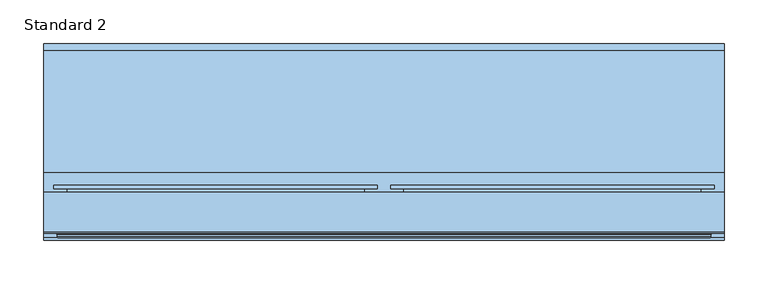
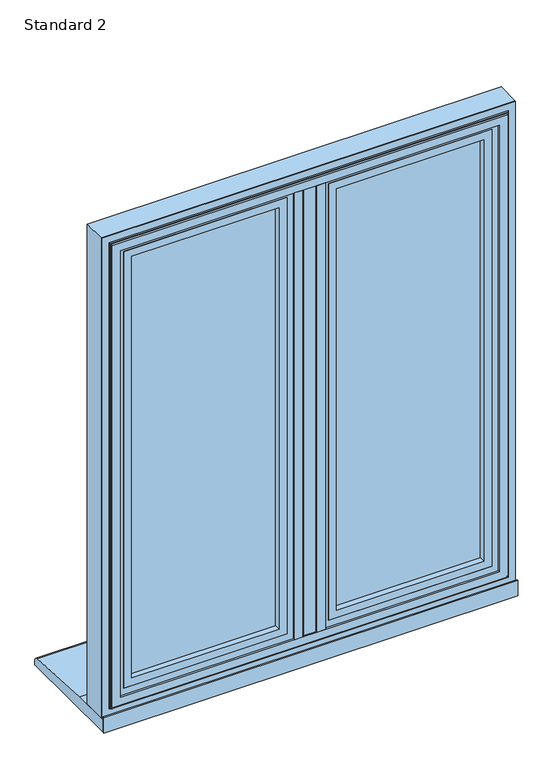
"""IFC4 building model written with IfcOpenShell, lengths in millimetres: window geometry, SMARTS_AlithermHeritage : Standard 2."""

from ifc_helpers import new_model, si_unit, point, frame, frame_2d, origin, place, context, project, spatial, polyline, circle_curve, ellipse_curve, trimmed, segment, composite_curve, outline, extrude, source, transform, mapped, element, save
from ifc_brep_helpers import plane_surface, cylinder_surface, revolved_surface, advanced_brep


def standard_2_d713537e(model_context):
    return source(origin(), model_context, "Body", "SolidModel", [
        extrude(outline(polyline([(-13.6941456, 95.2798432), (13.6941456, 95.2798432), (13.6941456, 47.279476), (-13.6941456, 47.279476), (-13.6941456, 95.2798432)])), frame((0.0, 0.0, 652.6941456), z_axis=(0.0, 0.0, 1.0), x_axis=(1.0, 0.0, 0.0)), (0.0, 0.0, 1.0), 919.6117089),
        extrude(outline(composite_curve([segment(polyline([(-29.0, 47.279476), (29.0, 47.279476), (29.0, 43.2798432), (13.0, 43.2798432)]), True, "CONTINUOUS"), segment(trimmed(circle_curve(frame_2d((13.0, 44.2798432)), 1.0), [point((13.0, 43.2798432))], [point((12.0, 44.2798432))], False, "CARTESIAN"), True, "CONTINUOUS"), segment(polyline([(12.0, 44.2798432), (12.0, 45.7798432), (-12.0, 45.7798432), (-12.0, 44.2798432)]), True, "CONTINUOUS"), segment(trimmed(circle_curve(frame_2d((-13.0, 44.2798432)), 1.0), [point((-12.0, 44.2798432))], [point((-13.0, 43.2798432))], False, "CARTESIAN"), True, "CONTINUOUS"), segment(polyline([(-13.0, 43.2798432), (-29.0, 43.2798432), (-29.0, 47.279476)]), True, "CONTINUOUS")], self_intersect=False)), frame((0.0, 0.0, 668.0), z_axis=(0.0, 0.0, 1.0), x_axis=(1.0, 0.0, 0.0)), (0.0, 0.0, 1.0), 889.0),
        extrude(outline(polyline([(-343.5, 89.2798432), (-42.5, 89.2798432), (-42.5, 85.2798432), (-343.5, 85.2798432), (-343.5, 89.2798432)])), frame((0.0, 0.0, 681.5), z_axis=(0.0, 0.0, 1.0), x_axis=(1.0, 0.0, 0.0)), (0.0, 0.0, 1.0), 862.0),
        extrude(outline(polyline([(-343.5, 69.2798432), (-42.5, 69.2798432), (-42.5, 65.2798432), (-343.5, 65.2798432), (-343.5, 69.2798432)])), frame((0.0, 0.0, 681.5), z_axis=(0.0, 0.0, 1.0), x_axis=(1.0, 0.0, 0.0)), (0.0, 0.0, 1.0), 862.0),
        extrude(outline(polyline([(1543.5, -343.5), (681.5, -343.5), (681.5, -42.5), (1543.5, -42.5), (1543.5, -343.5)]), holes=[polyline([(1533.5, -52.5), (691.5, -52.5), (691.5, -333.5), (1533.5, -333.5), (1533.5, -52.5)])]), frame((0.0, 69.2798432, 0.0), z_axis=(0.0, 1.0, 0.0), x_axis=(0.0, 0.0, 1.0)), (0.0, 0.0, 1.0), 16.0),
        extrude(outline(polyline([(1547.0052956, -347.0052956), (677.9947044, -347.0052956), (677.9947044, -38.9947044), (1547.0052956, -38.9947044), (1547.0052956, -347.0052956)]), holes=[polyline([(1532.0, -54.0), (693.0, -54.0), (693.0, -332.0), (1532.0, -332.0), (1532.0, -54.0)])]), frame((0.0, 51.2798432, 0.0), z_axis=(0.0, 1.0, 0.0), x_axis=(0.0, 0.0, 1.0)), (0.0, 0.0, 1.0), 11.3),
        extrude(outline(polyline([(662.3548042, -362.6451958), (662.3548042, -23.3548042), (1562.6451958, -23.3548042), (1562.6451958, -362.6451958), (662.3548042, -362.6451958)]), holes=[polyline([(1547.0, -347.0), (1547.0, -39.0), (678.0, -39.0), (678.0, -347.0), (1547.0, -347.0)])]), frame((0.0, 51.2798432, 0.0), z_axis=(0.0, 1.0, 0.0), x_axis=(0.0, 0.0, 1.0)), (0.0, 0.0, 1.0), 41.6),
        advanced_brep(
        [(-332.0, 98.0798432, 1532.0), (-332.0, 92.8798432, 1532.0), (-332.0, 92.8798432, 693.0), (-332.0, 98.0798432, 693.0), (-54.0, 92.8798432, 693.0), (-54.0, 98.0798432, 693.0), (-54.0, 92.8798432, 1532.0), (-54.0, 98.0798432, 1532.0), (-378.2, 99.2798432, 1578.2), (-378.2, 103.2798432, 1578.2), (-378.2, 103.2798432, 646.8), (-378.2, 99.2798432, 646.8), (-7.8, 103.2798432, 646.8), (-7.8, 99.2798432, 646.8), (-7.8, 103.2798432, 1578.2), (-7.8, 99.2798432, 1578.2), (-363.1467657, 99.2798432, 1563.1467657), (-22.8532343, 99.2798432, 1563.1467657), (-22.8532343, 99.2798432, 661.8532343), (-363.1467657, 99.2798432, 661.8532343), (-349.2, 103.2798432, 675.8), (-36.8, 103.2798432, 675.8), (-36.8, 103.2798432, 1549.2), (-349.2, 103.2798432, 1549.2), (-363.1467657, 92.8798432, 1563.1467657), (-363.1467657, 92.8798432, 661.8532343), (-22.8532343, 92.8798432, 661.8532343), (-22.8532343, 92.8798432, 1563.1467657), (-347.2, 101.2798432, 1547.2), (-347.2, 100.0798432, 1547.2), (-347.2, 100.0798432, 677.8), (-347.2, 101.2798432, 677.8), (-345.2, 98.0798432, 1545.2), (-345.2, 98.0798432, 679.8), (-38.8, 100.0798432, 677.8), (-38.8, 101.2798432, 677.8), (-40.8, 98.0798432, 679.8), (-38.8, 100.0798432, 1547.2), (-38.8, 101.2798432, 1547.2), (-40.8, 98.0798432, 1545.2)],
        [
            (0, 1),
            (1, 2),
            (2, 3),
            (3, 0),
            (2, 4),
            (4, 5),
            (5, 3),
            (4, 6),
            (6, 7),
            (7, 5),
            (6, 1),
            (0, 7),
            (8, 9),
            (9, 10),
            (10, 11),
            (11, 8),
            (10, 12),
            (12, 13),
            (13, 11),
            (12, 14),
            (14, 15),
            (15, 13),
            (15, 8),
            (16, 17),
            (17, 18),
            (18, 19),
            (19, 16),
            (14, 9),
            (20, 21),
            (21, 22),
            (22, 23),
            (23, 20),
            (24, 16),
            (19, 25),
            (25, 24),
            (18, 26),
            (26, 25),
            (17, 27),
            (27, 26),
            (27, 24),
            (28, 29),
            (29, 30),
            (30, 31),
            (31, 28),
            (29, 32, ellipse_curve(frame((-345.2, 100.0798432, 1545.2), z_axis=(0.7071067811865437, 0.0, 0.7071067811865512), x_axis=(0.7071067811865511, 0.0, -0.7071067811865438)), 2.8284271, 2.0)),
            (32, 33),
            (33, 30, ellipse_curve(frame((-345.2, 100.0798432, 679.8), z_axis=(0.7071067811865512, 0.0, -0.7071067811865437), x_axis=(-0.7071067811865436, 0.0, -0.7071067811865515)), 2.8284271, 2.0)),
            (30, 34),
            (34, 35),
            (35, 31),
            (33, 36),
            (36, 34, ellipse_curve(frame((-40.8, 100.0798432, 679.8), z_axis=(0.7071067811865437, 0.0, 0.7071067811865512), x_axis=(0.7071067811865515, 0.0, -0.7071067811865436)), 2.8284271, 2.0)),
            (34, 37),
            (37, 38),
            (38, 35),
            (36, 39),
            (39, 37, ellipse_curve(frame((-40.8, 100.0798432, 1545.2), z_axis=(-0.7071067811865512, 0.0, 0.7071067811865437), x_axis=(0.7071067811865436, 0.0, 0.7071067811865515)), 2.8284271, 2.0)),
            (32, 39),
            (37, 29),
            (28, 38),
            (23, 28, ellipse_curve(frame((-349.2, 101.2798432, 1549.2), z_axis=(-0.7071067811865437, 0.0, -0.7071067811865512), x_axis=(-0.7071067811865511, 0.0, 0.7071067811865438)), 2.8284271, 2.0)),
            (31, 20, ellipse_curve(frame((-349.2, 101.2798432, 675.8), z_axis=(-0.7071067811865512, 0.0, 0.7071067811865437), x_axis=(0.7071067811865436, 0.0, 0.7071067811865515)), 2.8284271, 2.0)),
            (35, 21, ellipse_curve(frame((-36.8, 101.2798432, 675.8), z_axis=(-0.7071067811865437, 0.0, -0.7071067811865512), x_axis=(-0.7071067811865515, 0.0, 0.7071067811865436)), 2.8284271, 2.0)),
            (38, 22, ellipse_curve(frame((-36.8, 101.2798432, 1549.2), z_axis=(0.7071067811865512, 0.0, -0.7071067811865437), x_axis=(-0.7071067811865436, 0.0, -0.7071067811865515)), 2.8284271, 2.0)),
        ],
        [
            plane_surface(frame((-332.0, 92.8798432, 1532.0), z_axis=(1.0, 0.0, 0.0), x_axis=(0.0, 0.0, -1.0))),
            plane_surface(frame((-332.0, 92.8798432, 693.0), z_axis=(0.0, 0.0, 1.0), x_axis=(1.0, 0.0, 0.0))),
            plane_surface(frame((-54.0, 92.8798432, 693.0), z_axis=(-1.0, 0.0, 0.0), x_axis=(0.0, 0.0, 1.0))),
            plane_surface(frame((-54.0, 92.8798432, 1532.0), z_axis=(0.0, 0.0, -1.0), x_axis=(-1.0, 0.0, 0.0))),
            plane_surface(frame((-378.2, 103.2798432, 1578.2), z_axis=(-1.0, 0.0, 0.0), x_axis=(0.0, 0.0, -1.0))),
            plane_surface(frame((-378.2, 103.2798432, 646.8), z_axis=(0.0, 0.0, -1.0), x_axis=(1.0, 0.0, 0.0))),
            plane_surface(frame((-7.8, 103.2798432, 646.8), z_axis=(1.0, 0.0, 0.0), x_axis=(0.0, 0.0, 1.0))),
            plane_surface(frame((-7.8, 99.2798432, 1578.2), z_axis=(0.0, -1.0, 0.0), x_axis=(-1.0, 0.0, 0.0))),
            plane_surface(frame((-7.8, 103.2798432, 1578.2), z_axis=(0.0, 0.0, 1.0), x_axis=(-1.0, 0.0, 0.0))),
            plane_surface(frame((-36.8, 103.2798432, 1549.2), z_axis=(0.0, 1.0, 0.0), x_axis=(-1.0, 0.0, 0.0))),
            plane_surface(frame((-363.1467657, 99.2798432, 1563.1467657), z_axis=(-1.0, 0.0, 0.0), x_axis=(0.0, 0.0, -1.0))),
            plane_surface(frame((-363.1467657, 99.2798432, 661.8532343), z_axis=(0.0, 0.0, -1.0), x_axis=(1.0, 0.0, 0.0))),
            plane_surface(frame((-22.8532343, 99.2798432, 661.8532343), z_axis=(1.0, 0.0, 0.0), x_axis=(0.0, 0.0, 1.0))),
            plane_surface(frame((-22.8532343, 92.8798432, 1563.1467657), z_axis=(0.0, -1.0, 0.0), x_axis=(-1.0, 0.0, 0.0))),
            plane_surface(frame((-22.8532343, 99.2798432, 1563.1467657), z_axis=(0.0, 0.0, 1.0), x_axis=(-1.0, 0.0, 0.0))),
            plane_surface(frame((-347.2, 100.0798432, 1547.2), z_axis=(1.0, 0.0, 0.0), x_axis=(0.0, 0.0, -1.0))),
            revolved_surface(polyline([(-347.2, 100.0798432, 677.8), (-347.2, 100.0798432, 1547.2)]), (-345.2, 100.0798432, 1557.0), (0.0, 0.0, -1.0)),
            plane_surface(frame((-347.2, 100.0798432, 677.8), z_axis=(0.0, 0.0, 1.0), x_axis=(1.0, 0.0, 0.0))),
            revolved_surface(polyline([(-38.80000000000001, 100.0798432, 677.8), (-347.2, 100.0798432, 677.8)]), (-357.0, 100.0798432, 679.8), (1.0, 0.0, 0.0)),
            plane_surface(frame((-38.8, 100.0798432, 677.8), z_axis=(-1.0, 0.0, 0.0), x_axis=(0.0, 0.0, 1.0))),
            revolved_surface(polyline([(-38.8, 100.0798432, 1547.2), (-38.8, 100.0798432, 677.8)]), (-40.8, 100.0798432, 668.0), (0.0, 0.0, 1.0)),
            plane_surface(frame((-54.0, 98.0798432, 1532.0), z_axis=(0.0, 1.0, 0.0), x_axis=(-1.0, 0.0, 0.0))),
            plane_surface(frame((-38.8, 100.0798432, 1547.2), z_axis=(0.0, 0.0, -1.0), x_axis=(-1.0, 0.0, 0.0))),
            revolved_surface(polyline([(-347.2, 100.0798432, 1547.2), (-38.8, 100.0798432, 1547.2)]), (-29.0, 100.0798432, 1545.2), (-1.0, 0.0, 0.0)),
            cylinder_surface(frame((-349.2, 101.2798432, 1557.0), z_axis=(0.0, 0.0, 1.0), x_axis=(-1.0, 0.0, 0.0)), 2.0),
            cylinder_surface(frame((-357.0, 101.2798432, 675.8), z_axis=(-1.0, 0.0, 0.0), x_axis=(0.0, 0.0, -1.0)), 2.0),
            cylinder_surface(frame((-36.8, 101.2798432, 668.0), z_axis=(0.0, 0.0, -1.0), x_axis=(1.0, 0.0, 0.0)), 2.0),
            cylinder_surface(frame((-29.0, 101.2798432, 1549.2), z_axis=(1.0, 0.0, 0.0), x_axis=(0.0, 0.0, 1.0)), 2.0),
        ],
        [
            (0, [[1, 2, 3, 4]]),
            (1, [[-3, 5, 6, 7]]),
            (2, [[-6, 8, 9, 10]]),
            (3, [[-9, 11, -1, 12]]),
            (4, [[13, 14, 15, 16]]),
            (5, [[-15, 17, 18, 19]]),
            (6, [[-18, 20, 21, 22]]),
            (7, [[-19, -22, 23, -16], [24, 25, 26, 27]]),
            (8, [[-21, 28, -13, -23]]),
            (9, [[-28, -20, -17, -14], [29, 30, 31, 32]]),
            (10, [[33, -27, 34, 35]]),
            (11, [[-34, -26, 36, 37]]),
            (12, [[-36, -25, 38, 39]]),
            (13, [[-37, -39, 40, -35], [-11, -8, -5, -2]]),
            (14, [[-38, -24, -33, -40]]),
            (15, [[41, 42, 43, 44]]),
            (16, [[45, 46, 47, -42]]),
            (17, [[-43, 48, 49, 50]]),
            (18, [[-47, 51, 52, -48]]),
            (19, [[-49, 53, 54, 55]]),
            (20, [[-52, 56, 57, -53]]),
            (21, [[58, -56, -51, -46], [-7, -10, -12, -4]]),
            (22, [[-54, 59, -41, 60]]),
            (23, [[-57, -58, -45, -59]]),
            (24, [[61, -44, 62, -32]]),
            (25, [[-62, -50, 63, -29]]),
            (26, [[-63, -55, 64, -30]]),
            (27, [[-64, -60, -61, -31]]),
        ],
    ),
        extrude(outline(polyline([(1590.0, 390.0), (1590.0, -390.0), (635.0, -390.0), (635.0, 390.0), (1590.0, 390.0)]), holes=[polyline([(652.7000182, 372.2999818), (652.7000182, -372.2999818), (1572.2999818, -372.2999818), (1572.2999818, 372.2999818), (652.7000182, 372.2999818)])]), frame((0.0, 50.279857, 0.0), z_axis=(0.0, 1.0, 0.0), x_axis=(0.0, 0.0, 1.0)), (0.0, 0.0, 1.0), 44.9999962),
        advanced_brep(
        [(357.0, 43.2798432, 1557.0), (357.0, 47.2798432, 1557.0), (357.0, 47.2798432, 668.0), (357.0, 43.2798432, 668.0), (390.0, 50.279857, 1590.0), (390.0, 48.279857, 1590.0), (390.0, 48.279857, 635.0), (390.0, 50.279857, 635.0), (372.4999818, 43.2798432, 1572.4999818), (-372.4999818, 43.2798432, 1572.4999818), (-372.4999818, 43.2798432, 652.5000182), (372.4999818, 43.2798432, 652.5000182), (-357.0, 43.2798432, 668.0), (-357.0, 43.2798432, 1557.0), (-390.0, 50.279857, 1590.0), (-390.0, 48.279857, 1590.0), (-390.0, 50.279857, 635.0), (372.2999818, 50.279857, 1572.2999818), (-372.2999818, 50.279857, 1572.2999818), (-372.2999818, 50.279857, 652.7000182), (372.2999818, 50.279857, 652.7000182), (-357.0, 47.2798432, 1557.0), (-357.0, 47.2798432, 668.0), (-390.0, 48.279857, 635.0), (-372.2999818, 47.2798432, 1572.2999818), (372.2999818, 47.2798432, 1572.2999818), (372.2999818, 47.2798432, 652.7000182), (374.4999818, 46.779857, 650.5000182), (374.4999818, 45.2798432, 650.5000182), (-374.4999818, 45.2798432, 650.5000182), (-374.4999818, 46.779857, 650.5000182), (374.4999818, 46.779857, 1574.4999818), (374.4999818, 45.2798432, 1574.4999818), (-372.2999818, 47.2798432, 652.7000182), (-374.4999818, 45.2798432, 1574.4999818), (-374.4999818, 46.779857, 1574.4999818), (375.9999818, 48.279857, 1575.9999818), (375.9999818, 48.279857, 649.0000182), (-375.9999818, 48.279857, 649.0000182), (-375.9999818, 48.279857, 1575.9999818)],
        [
            (0, 1),
            (1, 2),
            (2, 3),
            (3, 0),
            (4, 5),
            (5, 6),
            (6, 7),
            (7, 4),
            (8, 9),
            (9, 10),
            (10, 11),
            (11, 8),
            (3, 12),
            (12, 13),
            (13, 0),
            (14, 15),
            (15, 5),
            (4, 14),
            (7, 16),
            (16, 14),
            (17, 18),
            (18, 19),
            (19, 20),
            (20, 17),
            (13, 21),
            (21, 1),
            (2, 22),
            (22, 12),
            (22, 21),
            (6, 23),
            (23, 16),
            (23, 15),
            (24, 18),
            (17, 25),
            (25, 24),
            (20, 26),
            (26, 25),
            (27, 28),
            (28, 29),
            (29, 30),
            (30, 27),
            (31, 32),
            (32, 28),
            (27, 31),
            (19, 33),
            (33, 26),
            (24, 33),
            (29, 34),
            (34, 35),
            (35, 30),
            (34, 32),
            (31, 35),
            (36, 31, ellipse_curve(frame((375.9999818, 46.779857, 1575.9999818), z_axis=(-0.7071067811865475, 0.0, 0.7071067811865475), x_axis=(-0.7071067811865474, 0.0, -0.7071067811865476)), 2.1213203, 1.5)),
            (27, 37, ellipse_curve(frame((375.9999818, 46.779857, 649.0000182), z_axis=(-0.7071067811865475, 0.0, -0.7071067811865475), x_axis=(0.7071067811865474, 0.0, -0.7071067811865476)), 2.1213203, 1.5)),
            (37, 36),
            (30, 38, ellipse_curve(frame((-375.9999818, 46.779857, 649.0000182), z_axis=(-0.7071067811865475, 0.0, 0.7071067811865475), x_axis=(-0.7071067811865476, 0.0, -0.7071067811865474)), 2.1213203, 1.5)),
            (38, 37),
            (35, 39, ellipse_curve(frame((-375.9999818, 46.779857, 1575.9999818), z_axis=(0.7071067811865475, 0.0, 0.7071067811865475), x_axis=(-0.7071067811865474, 0.0, 0.7071067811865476)), 2.1213203, 1.5)),
            (39, 38),
            (36, 39),
            (32, 8, ellipse_curve(frame((372.4999818, 45.2798432, 1572.4999818), z_axis=(0.7071067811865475, 0.0, -0.7071067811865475), x_axis=(0.7071067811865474, 0.0, 0.7071067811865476)), 2.8284271, 2.0)),
            (11, 28, ellipse_curve(frame((372.4999818, 45.2798432, 652.5000182), z_axis=(0.7071067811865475, 0.0, 0.7071067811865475), x_axis=(-0.7071067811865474, 0.0, 0.7071067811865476)), 2.8284271, 2.0)),
            (10, 29, ellipse_curve(frame((-372.4999818, 45.2798432, 652.5000182), z_axis=(0.7071067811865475, 0.0, -0.7071067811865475), x_axis=(0.7071067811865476, 0.0, 0.7071067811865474)), 2.8284271, 2.0)),
            (9, 34, ellipse_curve(frame((-372.4999818, 45.2798432, 1572.4999818), z_axis=(-0.7071067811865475, 0.0, -0.7071067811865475), x_axis=(0.7071067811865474, 0.0, -0.7071067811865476)), 2.8284271, 2.0)),
        ],
        [
            plane_surface(frame((357.0, 47.2798432, 1557.0), z_axis=(-1.0, 0.0, 0.0), x_axis=(0.0, 0.0, -1.0))),
            plane_surface(frame((390.0, 48.279857, 1590.0), z_axis=(1.0, 0.0, 0.0), x_axis=(0.0, 0.0, -1.0))),
            plane_surface(frame((-357.0, 43.2798432, 1557.0), z_axis=(0.0, -1.0, 0.0), x_axis=(1.0, 0.0, 0.0))),
            plane_surface(frame((-390.0, 48.279857, 1590.0), z_axis=(0.0, 0.0, 1.0), x_axis=(1.0, 0.0, 0.0))),
            plane_surface(frame((-390.0, 50.279857, 1590.0), z_axis=(0.0, 1.0, 0.0), x_axis=(1.0, 0.0, 0.0))),
            plane_surface(frame((-357.0, 47.2798432, 1557.0), z_axis=(0.0, 0.0, -1.0), x_axis=(1.0, 0.0, 0.0))),
            plane_surface(frame((357.0, 47.2798432, 668.0), z_axis=(0.0, 0.0, 1.0), x_axis=(-1.0, 0.0, 0.0))),
            plane_surface(frame((-357.0, 47.2798432, 668.0), z_axis=(1.0, 0.0, 0.0), x_axis=(0.0, 0.0, 1.0))),
            plane_surface(frame((390.0, 48.279857, 635.0), z_axis=(0.0, 0.0, -1.0), x_axis=(-1.0, 0.0, 0.0))),
            plane_surface(frame((-390.0, 48.279857, 635.0), z_axis=(-1.0, 0.0, 0.0), x_axis=(0.0, 0.0, 1.0))),
            plane_surface(frame((-372.2999818, 50.279857, 1572.2999818), z_axis=(0.0, 0.0, -1.0), x_axis=(1.0, 0.0, 0.0))),
            plane_surface(frame((372.2999818, 50.279857, 1572.2999818), z_axis=(-1.0, 0.0, 0.0), x_axis=(0.0, 0.0, -1.0))),
            plane_surface(frame((374.4999818, 45.2798432, 650.5000182), z_axis=(0.0, 0.0, -1.0), x_axis=(-1.0, 0.0, 0.0))),
            plane_surface(frame((374.4999818, 45.2798432, 1574.4999818), z_axis=(1.0, 0.0, 0.0), x_axis=(0.0, 0.0, -1.0))),
            plane_surface(frame((372.2999818, 50.279857, 652.7000182), z_axis=(0.0, 0.0, 1.0), x_axis=(-1.0, 0.0, 0.0))),
            plane_surface(frame((-372.2999818, 50.279857, 652.7000182), z_axis=(1.0, 0.0, 0.0), x_axis=(0.0, 0.0, 1.0))),
            plane_surface(frame((-374.4999818, 45.2798432, 650.5000182), z_axis=(-1.0, 0.0, 0.0), x_axis=(0.0, 0.0, 1.0))),
            plane_surface(frame((-372.2999818, 47.2798432, 1572.2999818), z_axis=(0.0, 1.0, 0.0), x_axis=(1.0, 0.0, 0.0))),
            plane_surface(frame((-374.4999818, 45.2798432, 1574.4999818), z_axis=(0.0, 0.0, 1.0), x_axis=(1.0, 0.0, 0.0))),
            revolved_surface(polyline([(374.4999818, 46.779857, 647.5000182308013), (374.4999818, 46.779857, 1577.4999817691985)]), (375.9999818, 46.779857, 1590.0), (0.0, 0.0, -1.0)),
            revolved_surface(polyline([(-377.4999817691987, 46.779857, 650.5000182), (377.49998176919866, 46.779857, 650.5000182)]), (390.0, 46.779857, 649.0000182), (-1.0, 0.0, 0.0)),
            revolved_surface(polyline([(-374.4999818, 46.779857, 1577.4999817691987), (-374.4999818, 46.779857, 647.5000182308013)]), (-375.9999818, 46.779857, 635.0), (0.0, 0.0, 1.0)),
            revolved_surface(polyline([(377.4999817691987, 46.779857, 1574.4999818), (-377.49998176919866, 46.779857, 1574.4999818)]), (-390.0, 46.779857, 1575.9999818), (1.0, 0.0, 0.0)),
            plane_surface(frame((-375.9999818, 48.279857, 1575.9999818), z_axis=(0.0, -1.0, 0.0), x_axis=(1.0, 0.0, 0.0))),
            cylinder_surface(frame((372.4999818, 45.2798432, 1590.0), z_axis=(0.0, 0.0, 1.0), x_axis=(-1.0, 0.0, 0.0)), 2.0),
            cylinder_surface(frame((390.0, 45.2798432, 652.5000182), z_axis=(1.0, 0.0, 0.0), x_axis=(0.0, 0.0, 1.0)), 2.0),
            cylinder_surface(frame((-372.4999818, 45.2798432, 635.0), z_axis=(0.0, 0.0, -1.0), x_axis=(1.0, 0.0, 0.0)), 2.0),
            cylinder_surface(frame((-390.0, 45.2798432, 1572.4999818), z_axis=(-1.0, 0.0, 0.0), x_axis=(0.0, 0.0, -1.0)), 2.0),
        ],
        [
            (0, [[1, 2, 3, 4]]),
            (1, [[5, 6, 7, 8]]),
            (2, [[9, 10, 11, 12], [13, 14, 15, -4]]),
            (3, [[16, 17, -5, 18]]),
            (4, [[19, 20, -18, -8], [21, 22, 23, 24]]),
            (5, [[25, 26, -1, -15]]),
            (6, [[-3, 27, 28, -13]]),
            (7, [[-28, 29, -25, -14]]),
            (8, [[-7, 30, 31, -19]]),
            (9, [[-31, 32, -16, -20]]),
            (10, [[33, -21, 34, 35]]),
            (11, [[-34, -24, 36, 37]]),
            (12, [[38, 39, 40, 41]]),
            (13, [[42, 43, -38, 44]]),
            (14, [[-36, -23, 45, 46]]),
            (15, [[-45, -22, -33, 47]]),
            (16, [[-40, 48, 49, 50]]),
            (17, [[-46, -47, -35, -37], [-26, -29, -27, -2]]),
            (18, [[-49, 51, -42, 52]]),
            (19, [[53, -44, 54, 55]]),
            (20, [[-54, -41, 56, 57]]),
            (21, [[-56, -50, 58, 59]]),
            (22, [[-58, -52, -53, 60]]),
            (23, [[-17, -32, -30, -6], [-57, -59, -60, -55]]),
            (24, [[61, -12, 62, -43]]),
            (25, [[-62, -11, 63, -39]]),
            (26, [[-63, -10, 64, -48]]),
            (27, [[-64, -9, -61, -51]]),
        ],
    ),
        extrude(outline(polyline([(42.5, 89.2798432), (343.5, 89.2798432), (343.5, 85.2798432), (42.5, 85.2798432), (42.5, 89.2798432)])), frame((0.0, 0.0, 681.5), z_axis=(0.0, 0.0, 1.0), x_axis=(1.0, 0.0, 0.0)), (0.0, 0.0, 1.0), 862.0),
        extrude(outline(polyline([(42.5, 69.2798432), (343.5, 69.2798432), (343.5, 65.2798432), (42.5, 65.2798432), (42.5, 69.2798432)])), frame((0.0, 0.0, 681.5), z_axis=(0.0, 0.0, 1.0), x_axis=(1.0, 0.0, 0.0)), (0.0, 0.0, 1.0), 862.0),
        extrude(outline(polyline([(1543.5, 42.5), (681.5, 42.5), (681.5, 343.5), (1543.5, 343.5), (1543.5, 42.5)]), holes=[polyline([(1533.5, 333.5), (691.5, 333.5), (691.5, 52.5), (1533.5, 52.5), (1533.5, 333.5)])]), frame((0.0, 69.2798432, 0.0), z_axis=(0.0, 1.0, 0.0), x_axis=(0.0, 0.0, 1.0)), (0.0, 0.0, 1.0), 16.0),
        extrude(outline(polyline([(1547.0052956, 38.9947044), (677.9947044, 38.9947044), (677.9947044, 347.0052956), (1547.0052956, 347.0052956), (1547.0052956, 38.9947044)]), holes=[polyline([(1532.0, 332.0), (693.0, 332.0), (693.0, 54.0), (1532.0, 54.0), (1532.0, 332.0)])]), frame((0.0, 51.2798432, 0.0), z_axis=(0.0, 1.0, 0.0), x_axis=(0.0, 0.0, 1.0)), (0.0, 0.0, 1.0), 11.3),
        extrude(outline(polyline([(662.3548042, 23.3548042), (662.3548042, 362.6451958), (1562.6451958, 362.6451958), (1562.6451958, 23.3548042), (662.3548042, 23.3548042)]), holes=[polyline([(1547.0, 39.0), (1547.0, 347.0), (678.0, 347.0), (678.0, 39.0), (1547.0, 39.0)])]), frame((0.0, 51.2798432, 0.0), z_axis=(0.0, 1.0, 0.0), x_axis=(0.0, 0.0, 1.0)), (0.0, 0.0, 1.0), 41.6),
        advanced_brep(
        [(54.0, 98.0798432, 1532.0), (54.0, 92.8798432, 1532.0), (54.0, 92.8798432, 693.0), (54.0, 98.0798432, 693.0), (332.0, 92.8798432, 693.0), (332.0, 98.0798432, 693.0), (332.0, 92.8798432, 1532.0), (332.0, 98.0798432, 1532.0), (7.8, 99.2798432, 1578.2), (7.8, 103.2798432, 1578.2), (7.8, 103.2798432, 646.8), (7.8, 99.2798432, 646.8), (378.2, 103.2798432, 646.8), (378.2, 99.2798432, 646.8), (378.2, 103.2798432, 1578.2), (378.2, 99.2798432, 1578.2), (22.8532343, 99.2798432, 1563.1467657), (363.1467657, 99.2798432, 1563.1467657), (363.1467657, 99.2798432, 661.8532343), (22.8532343, 99.2798432, 661.8532343), (36.8, 103.2798432, 675.8), (349.2, 103.2798432, 675.8), (349.2, 103.2798432, 1549.2), (36.8, 103.2798432, 1549.2), (22.8532343, 92.8798432, 1563.1467657), (22.8532343, 92.8798432, 661.8532343), (363.1467657, 92.8798432, 661.8532343), (363.1467657, 92.8798432, 1563.1467657), (38.8, 101.2798432, 1547.2), (38.8, 100.0798432, 1547.2), (38.8, 100.0798432, 677.8), (38.8, 101.2798432, 677.8), (40.8, 98.0798432, 1545.2), (40.8, 98.0798432, 679.8), (347.2, 100.0798432, 677.8), (347.2, 101.2798432, 677.8), (345.2, 98.0798432, 679.8), (347.2, 100.0798432, 1547.2), (347.2, 101.2798432, 1547.2), (345.2, 98.0798432, 1545.2)],
        [
            (0, 1),
            (1, 2),
            (2, 3),
            (3, 0),
            (2, 4),
            (4, 5),
            (5, 3),
            (4, 6),
            (6, 7),
            (7, 5),
            (6, 1),
            (0, 7),
            (8, 9),
            (9, 10),
            (10, 11),
            (11, 8),
            (10, 12),
            (12, 13),
            (13, 11),
            (12, 14),
            (14, 15),
            (15, 13),
            (15, 8),
            (16, 17),
            (17, 18),
            (18, 19),
            (19, 16),
            (14, 9),
            (20, 21),
            (21, 22),
            (22, 23),
            (23, 20),
            (24, 16),
            (19, 25),
            (25, 24),
            (18, 26),
            (26, 25),
            (17, 27),
            (27, 26),
            (27, 24),
            (28, 29),
            (29, 30),
            (30, 31),
            (31, 28),
            (29, 32, ellipse_curve(frame((40.8, 100.0798432, 1545.2), z_axis=(0.7071067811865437, 0.0, 0.7071067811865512), x_axis=(0.7071067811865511, 0.0, -0.7071067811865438)), 2.8284271, 2.0)),
            (32, 33),
            (33, 30, ellipse_curve(frame((40.8, 100.0798432, 679.8), z_axis=(0.7071067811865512, 0.0, -0.7071067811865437), x_axis=(-0.7071067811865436, 0.0, -0.7071067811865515)), 2.8284271, 2.0)),
            (30, 34),
            (34, 35),
            (35, 31),
            (33, 36),
            (36, 34, ellipse_curve(frame((345.2, 100.0798432, 679.8), z_axis=(0.7071067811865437, 0.0, 0.7071067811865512), x_axis=(0.7071067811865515, 0.0, -0.7071067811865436)), 2.8284271, 2.0)),
            (34, 37),
            (37, 38),
            (38, 35),
            (36, 39),
            (39, 37, ellipse_curve(frame((345.2, 100.0798432, 1545.2), z_axis=(-0.7071067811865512, 0.0, 0.7071067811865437), x_axis=(0.7071067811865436, 0.0, 0.7071067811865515)), 2.8284271, 2.0)),
            (32, 39),
            (37, 29),
            (28, 38),
            (23, 28, ellipse_curve(frame((36.8, 101.2798432, 1549.2), z_axis=(-0.7071067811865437, 0.0, -0.7071067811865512), x_axis=(-0.7071067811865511, 0.0, 0.7071067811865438)), 2.8284271, 2.0)),
            (31, 20, ellipse_curve(frame((36.8, 101.2798432, 675.8), z_axis=(-0.7071067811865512, 0.0, 0.7071067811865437), x_axis=(0.7071067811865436, 0.0, 0.7071067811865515)), 2.8284271, 2.0)),
            (35, 21, ellipse_curve(frame((349.2, 101.2798432, 675.8), z_axis=(-0.7071067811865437, 0.0, -0.7071067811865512), x_axis=(-0.7071067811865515, 0.0, 0.7071067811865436)), 2.8284271, 2.0)),
            (38, 22, ellipse_curve(frame((349.2, 101.2798432, 1549.2), z_axis=(0.7071067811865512, 0.0, -0.7071067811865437), x_axis=(-0.7071067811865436, 0.0, -0.7071067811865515)), 2.8284271, 2.0)),
        ],
        [
            plane_surface(frame((54.0, 92.8798432, 1532.0), z_axis=(1.0, 0.0, 0.0), x_axis=(0.0, 0.0, -1.0))),
            plane_surface(frame((54.0, 92.8798432, 693.0), z_axis=(0.0, 0.0, 1.0), x_axis=(1.0, 0.0, 0.0))),
            plane_surface(frame((332.0, 92.8798432, 693.0), z_axis=(-1.0, 0.0, 0.0), x_axis=(0.0, 0.0, 1.0))),
            plane_surface(frame((332.0, 92.8798432, 1532.0), z_axis=(0.0, 0.0, -1.0), x_axis=(-1.0, 0.0, 0.0))),
            plane_surface(frame((7.8, 103.2798432, 1578.2), z_axis=(-1.0, 0.0, 0.0), x_axis=(0.0, 0.0, -1.0))),
            plane_surface(frame((7.8, 103.2798432, 646.8), z_axis=(0.0, 0.0, -1.0), x_axis=(1.0, 0.0, 0.0))),
            plane_surface(frame((378.2, 103.2798432, 646.8), z_axis=(1.0, 0.0, 0.0), x_axis=(0.0, 0.0, 1.0))),
            plane_surface(frame((378.2, 99.2798432, 1578.2), z_axis=(0.0, -1.0, 0.0), x_axis=(-1.0, 0.0, 0.0))),
            plane_surface(frame((378.2, 103.2798432, 1578.2), z_axis=(0.0, 0.0, 1.0), x_axis=(-1.0, 0.0, 0.0))),
            plane_surface(frame((349.2, 103.2798432, 1549.2), z_axis=(0.0, 1.0, 0.0), x_axis=(-1.0, 0.0, 0.0))),
            plane_surface(frame((22.8532343, 99.2798432, 1563.1467657), z_axis=(-1.0, 0.0, 0.0), x_axis=(0.0, 0.0, -1.0))),
            plane_surface(frame((22.8532343, 99.2798432, 661.8532343), z_axis=(0.0, 0.0, -1.0), x_axis=(1.0, 0.0, 0.0))),
            plane_surface(frame((363.1467657, 99.2798432, 661.8532343), z_axis=(1.0, 0.0, 0.0), x_axis=(0.0, 0.0, 1.0))),
            plane_surface(frame((363.1467657, 92.8798432, 1563.1467657), z_axis=(0.0, -1.0, 0.0), x_axis=(-1.0, 0.0, 0.0))),
            plane_surface(frame((363.1467657, 99.2798432, 1563.1467657), z_axis=(0.0, 0.0, 1.0), x_axis=(-1.0, 0.0, 0.0))),
            plane_surface(frame((38.8, 100.0798432, 1547.2), z_axis=(1.0, 0.0, 0.0), x_axis=(0.0, 0.0, -1.0))),
            revolved_surface(polyline([(38.8, 100.0798432, 677.8), (38.8, 100.0798432, 1547.2)]), (40.8, 100.0798432, 1557.0), (0.0, 0.0, -1.0)),
            plane_surface(frame((38.8, 100.0798432, 677.8), z_axis=(0.0, 0.0, 1.0), x_axis=(1.0, 0.0, 0.0))),
            revolved_surface(polyline([(347.2, 100.0798432, 677.8), (38.8, 100.0798432, 677.8)]), (29.0, 100.0798432, 679.8), (1.0, 0.0, 0.0)),
            plane_surface(frame((347.2, 100.0798432, 677.8), z_axis=(-1.0, 0.0, 0.0), x_axis=(0.0, 0.0, 1.0))),
            revolved_surface(polyline([(347.2, 100.0798432, 1547.2), (347.2, 100.0798432, 677.8)]), (345.2, 100.0798432, 668.0), (0.0, 0.0, 1.0)),
            plane_surface(frame((332.0, 98.0798432, 1532.0), z_axis=(0.0, 1.0, 0.0), x_axis=(-1.0, 0.0, 0.0))),
            plane_surface(frame((347.2, 100.0798432, 1547.2), z_axis=(0.0, 0.0, -1.0), x_axis=(-1.0, 0.0, 0.0))),
            revolved_surface(polyline([(38.80000000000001, 100.0798432, 1547.2), (347.2, 100.0798432, 1547.2)]), (357.0, 100.0798432, 1545.2), (-1.0, 0.0, 0.0)),
            cylinder_surface(frame((36.8, 101.2798432, 1557.0), z_axis=(0.0, 0.0, 1.0), x_axis=(-1.0, 0.0, 0.0)), 2.0),
            cylinder_surface(frame((29.0, 101.2798432, 675.8), z_axis=(-1.0, 0.0, 0.0), x_axis=(0.0, 0.0, -1.0)), 2.0),
            cylinder_surface(frame((349.2, 101.2798432, 668.0), z_axis=(0.0, 0.0, -1.0), x_axis=(1.0, 0.0, 0.0)), 2.0),
            cylinder_surface(frame((357.0, 101.2798432, 1549.2), z_axis=(1.0, 0.0, 0.0), x_axis=(0.0, 0.0, 1.0)), 2.0),
        ],
        [
            (0, [[1, 2, 3, 4]]),
            (1, [[-3, 5, 6, 7]]),
            (2, [[-6, 8, 9, 10]]),
            (3, [[-9, 11, -1, 12]]),
            (4, [[13, 14, 15, 16]]),
            (5, [[-15, 17, 18, 19]]),
            (6, [[-18, 20, 21, 22]]),
            (7, [[-19, -22, 23, -16], [24, 25, 26, 27]]),
            (8, [[-21, 28, -13, -23]]),
            (9, [[-28, -20, -17, -14], [29, 30, 31, 32]]),
            (10, [[33, -27, 34, 35]]),
            (11, [[-34, -26, 36, 37]]),
            (12, [[-36, -25, 38, 39]]),
            (13, [[-37, -39, 40, -35], [-11, -8, -5, -2]]),
            (14, [[-38, -24, -33, -40]]),
            (15, [[41, 42, 43, 44]]),
            (16, [[45, 46, 47, -42]]),
            (17, [[-43, 48, 49, 50]]),
            (18, [[-47, 51, 52, -48]]),
            (19, [[-49, 53, 54, 55]]),
            (20, [[-52, 56, 57, -53]]),
            (21, [[58, -56, -51, -46], [-7, -10, -12, -4]]),
            (22, [[-54, 59, -41, 60]]),
            (23, [[-57, -58, -45, -59]]),
            (24, [[61, -44, 62, -32]]),
            (25, [[-62, -50, 63, -29]]),
            (26, [[-63, -55, 64, -30]]),
            (27, [[-64, -60, -61, -31]]),
        ],
    ),
        extrude(outline(polyline([(390.0, 43.2798432), (390.0, 40.7798432), (-390.0, 40.7798432), (-390.0, 43.2798432), (390.0, 43.2798432)])), frame((0.0, 0.0, 610.0), z_axis=(0.0, 0.0, 1.0), x_axis=(1.0, 0.0, 0.0)), (0.0, 0.0, 1.0), 31.0),
        extrude(outline(composite_curve([segment(polyline([(265.7798432, 610.0), (43.2798432, 610.0), (43.2798432, 635.0), (118.7798432, 635.0), (258.4770891, 625.9276664)]), True, "CONTINUOUS"), segment(trimmed(circle_curve(frame_2d((257.7798432, 617.9581088)), 8.0), [point((258.4770891, 625.9276664))], [point((265.7798432, 617.9581088))], False, "CARTESIAN"), True, "CONTINUOUS"), segment(polyline([(265.7798432, 617.9581088), (265.7798432, 610.0)]), True, "CONTINUOUS")], self_intersect=False)), frame((-390.0, 0.0, 0.0), z_axis=(1.0, 0.0, 0.0), x_axis=(0.0, 1.0, 0.0)), (0.0, 0.0, 1.0), 780.0),
    ])


if __name__ == "__main__":
    model = new_model("IFC4")
    model_context = context("Model", 3, world=origin())
    ifc_project = project(units=[si_unit("LENGTHUNIT", "METRE", prefix="MILLI")], contexts=[model_context])
    site = spatial("IfcSite", under=ifc_project)
    building = spatial("IfcBuilding", under=site)
    placement = place(None, origin())
    standard_2_shape = standard_2_d713537e(model_context)
    element("IfcWindow", 1, ObjectType="SMARTS_AlithermHeritage : Standard 2", at=placement, inside=building, context=model_context, shape_type="MappedRepresentation", body=[
        mapped(standard_2_shape, transform((0.0, 0.0, 0.0), x_axis=(1.0, 0.0, 0.0), y_axis=(0.0, 1.0, 0.0), z_axis=(0.0, 0.0, 1.0))),
    ])
    save(model, "model.ifc")
